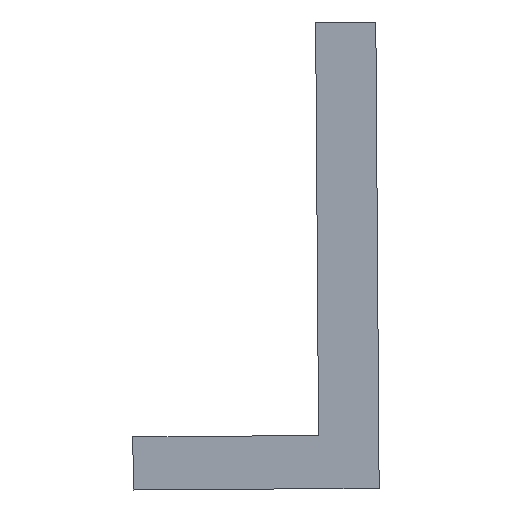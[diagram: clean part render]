
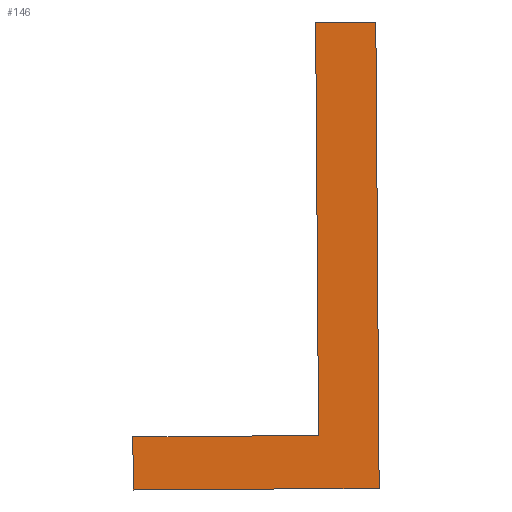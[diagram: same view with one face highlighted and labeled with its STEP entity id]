
A CAD part, front view. The second image highlights one B-rep face of the part: STEP entity #146.
In plain terms, the highlighted planar face has unit normal (0, -1, 0).
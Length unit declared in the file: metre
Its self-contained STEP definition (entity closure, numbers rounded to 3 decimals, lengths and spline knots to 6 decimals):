
#12=ORIENTED_EDGE('',*,*,#48,.F.);
#13=ORIENTED_EDGE('',*,*,#49,.F.);
#14=ORIENTED_EDGE('',*,*,#50,.F.);
#15=ORIENTED_EDGE('',*,*,#51,.F.);
#16=ORIENTED_EDGE('',*,*,#52,.F.);
#17=ORIENTED_EDGE('',*,*,#53,.F.);
#48=EDGE_CURVE('',#66,#67,#78,.T.);
#49=EDGE_CURVE('',#68,#66,#79,.T.);
#50=EDGE_CURVE('',#69,#68,#80,.T.);
#51=EDGE_CURVE('',#70,#69,#81,.T.);
#52=EDGE_CURVE('',#71,#70,#82,.T.);
#53=EDGE_CURVE('',#67,#71,#83,.T.);
#66=VERTEX_POINT('',#263);
#67=VERTEX_POINT('',#264);
#68=VERTEX_POINT('',#266);
#69=VERTEX_POINT('',#268);
#70=VERTEX_POINT('',#270);
#71=VERTEX_POINT('',#272);
#78=LINE('',#262,#96);
#79=LINE('',#265,#97);
#80=LINE('',#267,#98);
#81=LINE('',#269,#99);
#82=LINE('',#271,#100);
#83=LINE('',#273,#101);
#96=VECTOR('',#228,1.);
#97=VECTOR('',#229,1.);
#98=VECTOR('',#230,1.);
#99=VECTOR('',#231,1.);
#100=VECTOR('',#232,1.);
#101=VECTOR('',#233,1.);
#114=EDGE_LOOP('',(#12,#13,#14,#15,#16,#17));
#122=FACE_BOUND('',#114,.T.);
#130=PLANE('',#216);
#146=ADVANCED_FACE('',(#122),#130,.T.);
#216=AXIS2_PLACEMENT_3D('',#261,#226,#227);
#226=DIRECTION('',(0.,-1.,0.));
#227=DIRECTION('',(0.,0.,-1.));
#228=DIRECTION('',(-0.007,0.,1.));
#229=DIRECTION('',(-1.,0.,-0.007));
#230=DIRECTION('',(0.007,0.,-1.));
#231=DIRECTION('',(1.,0.,0.007));
#232=DIRECTION('',(-0.007,0.,1.));
#233=DIRECTION('',(1.,0.,0.007));
#261=CARTESIAN_POINT('',(-0.07802,-0.053656,0.0095));
#262=CARTESIAN_POINT('',(-0.078325,-0.053656,0.028794));
#263=CARTESIAN_POINT('',(-0.078325,-0.053656,0.028748));
#264=CARTESIAN_POINT('',(-0.078325,-0.053656,0.028794));
#265=CARTESIAN_POINT('',(-0.078325,-0.053656,0.028748));
#266=CARTESIAN_POINT('',(-0.07811,-0.053656,0.028749));
#267=CARTESIAN_POINT('',(-0.07811,-0.053656,0.028749));
#268=CARTESIAN_POINT('',(-0.078113,-0.053656,0.029156));
#269=CARTESIAN_POINT('',(-0.078113,-0.053656,0.029156));
#270=CARTESIAN_POINT('',(-0.078165,-0.053656,0.029156));
#271=CARTESIAN_POINT('',(-0.078165,-0.053656,0.029156));
#272=CARTESIAN_POINT('',(-0.078163,-0.053656,0.028795));
#273=CARTESIAN_POINT('',(-0.078163,-0.053656,0.028795));
